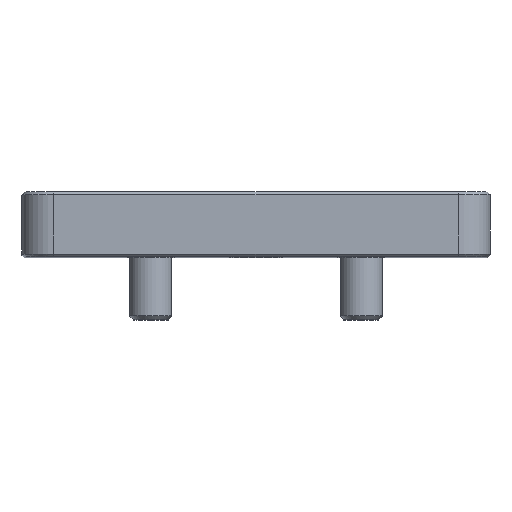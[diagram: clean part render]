
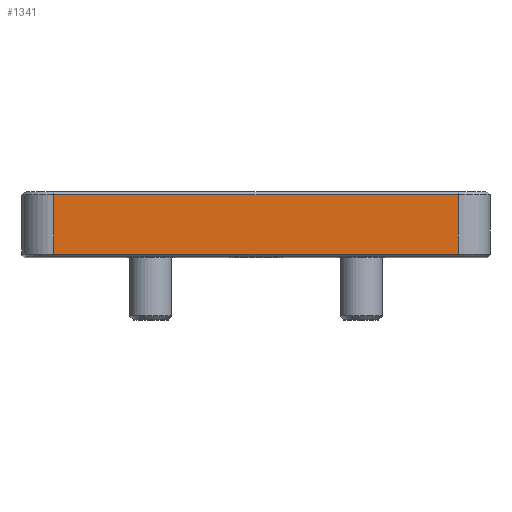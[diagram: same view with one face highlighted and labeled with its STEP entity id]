
A CAD part, top view. The second image highlights one B-rep face of the part: STEP entity #1341.
In plain terms, the highlighted planar face has unit normal (0, 0, 1).
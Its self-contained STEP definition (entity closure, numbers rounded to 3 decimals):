
#6 = DIRECTION ( 'NONE',  ( 1., 0., 0. ) ) ;
#412 = LINE ( 'NONE', #1666, #2985 ) ;
#555 = LINE ( 'NONE', #3422, #4691 ) ;
#656 = EDGE_LOOP ( 'NONE', ( #5023, #2972, #2623, #3562 ) ) ;
#691 = DIRECTION ( 'NONE',  ( -1., 0., 0. ) ) ;
#815 = EDGE_CURVE ( 'NONE', #4276, #5256, #555, .T. ) ;
#1341 = ADVANCED_FACE ( 'NONE', ( #4992 ), #2941, .F. ) ;
#1591 = CARTESIAN_POINT ( 'NONE',  ( -38.45, -0.5, 50.25 ) ) ;
#1666 = CARTESIAN_POINT ( 'NONE',  ( -44.45, -11.819, 50.25 ) ) ;
#1708 = DIRECTION ( 'NONE',  ( 0., -1., 0. ) ) ;
#2022 = DIRECTION ( 'NONE',  ( -1., 0., 0. ) ) ;
#2052 = DIRECTION ( 'NONE',  ( 0., 0., -1. ) ) ;
#2212 = DIRECTION ( 'NONE',  ( 0., 1., 0. ) ) ;
#2444 = CARTESIAN_POINT ( 'NONE',  ( -38.45, -11.819, 50.25 ) ) ;
#2492 = LINE ( 'NONE', #4159, #5033 ) ;
#2623 = ORIENTED_EDGE ( 'NONE', *, *, #815, .T. ) ;
#2696 = VERTEX_POINT ( 'NONE', #1591 ) ;
#2906 = VERTEX_POINT ( 'NONE', #2444 ) ;
#2941 = PLANE ( 'NONE',  #4945 ) ;
#2972 = ORIENTED_EDGE ( 'NONE', *, *, #4154, .T. ) ;
#2982 = CARTESIAN_POINT ( 'NONE',  ( 38.45, -11.819, 50.25 ) ) ;
#2985 = VECTOR ( 'NONE', #6, 1000. ) ;
#3422 = CARTESIAN_POINT ( 'NONE',  ( 38.45, 0., 50.25 ) ) ;
#3562 = ORIENTED_EDGE ( 'NONE', *, *, #3760, .T. ) ;
#3760 = EDGE_CURVE ( 'NONE', #5256, #2696, #4398, .T. ) ;
#3921 = CARTESIAN_POINT ( 'NONE',  ( -38.45, -0.5, 50.25 ) ) ;
#4072 = CARTESIAN_POINT ( 'NONE',  ( 38.45, -0.5, 50.25 ) ) ;
#4078 = CARTESIAN_POINT ( 'NONE',  ( -44.45, 0., 50.25 ) ) ;
#4154 = EDGE_CURVE ( 'NONE', #2906, #4276, #412, .T. ) ;
#4159 = CARTESIAN_POINT ( 'NONE',  ( -38.45, 0., 50.25 ) ) ;
#4276 = VERTEX_POINT ( 'NONE', #2982 ) ;
#4398 = LINE ( 'NONE', #3921, #4696 ) ;
#4691 = VECTOR ( 'NONE', #2212, 1000. ) ;
#4696 = VECTOR ( 'NONE', #691, 1000. ) ;
#4831 = EDGE_CURVE ( 'NONE', #2696, #2906, #2492, .T. ) ;
#4945 = AXIS2_PLACEMENT_3D ( 'NONE', #4078, #2052, #2022 ) ;
#4992 = FACE_OUTER_BOUND ( 'NONE', #656, .T. ) ;
#5023 = ORIENTED_EDGE ( 'NONE', *, *, #4831, .T. ) ;
#5033 = VECTOR ( 'NONE', #1708, 1000. ) ;
#5256 = VERTEX_POINT ( 'NONE', #4072 ) ;
